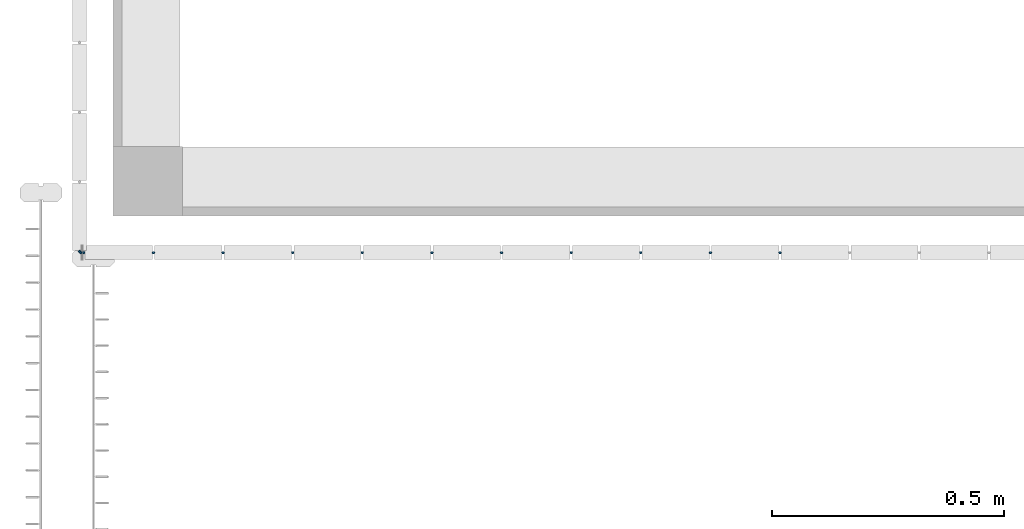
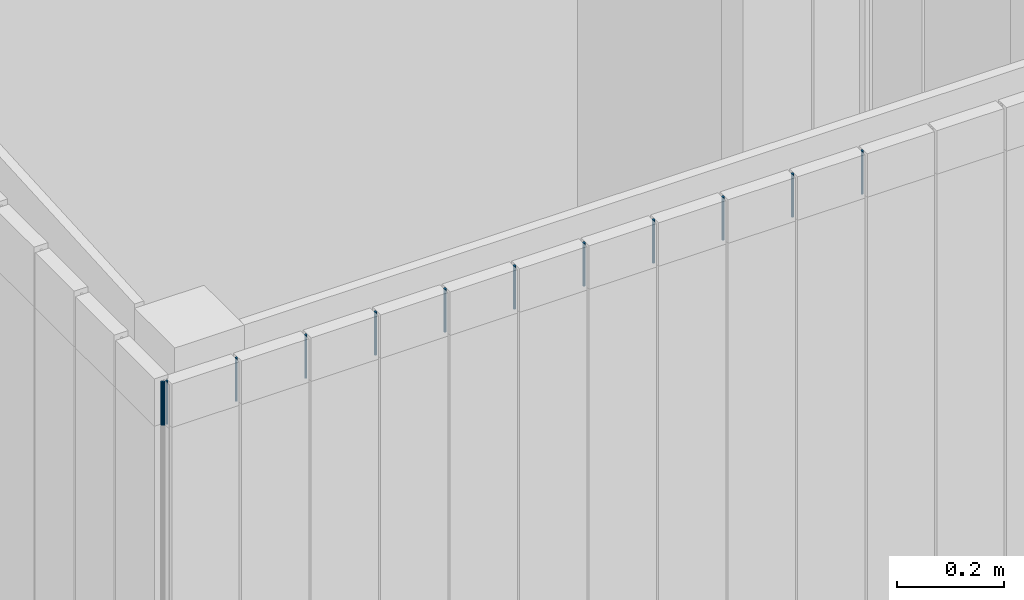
# One storey, part 63 of 81: 13 members, 2 elements without a shape of their own.
"""IFC2X3 building model written with IfcOpenShell, lengths in metres."""

from ifc_helpers import new_model, entity, si_unit, converted_unit, derived_unit, direction, frame, frame_2d, origin, place, context, subcontext, project, spatial, circle, extrude, source, transform, mapped, material, type_object, type_shapes, element, aggregate, save


model = new_model("IFC2X3")

# Units and contexts
model_context = context("Model", 3, precision=1e-05, world=origin(), true_north=direction((6.12303176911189e-17, 1.0)))
body_context = subcontext(model_context, "Body", "Model", "MODEL_VIEW")
ifc_project = project(units=[si_unit("LENGTHUNIT", "METRE"), si_unit("AREAUNIT", "SQUARE_METRE"), si_unit("VOLUMEUNIT", "CUBIC_METRE"), converted_unit("PLANEANGLEUNIT", "DEGREE", entity("IfcRatioMeasure", 0.0174532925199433), si_unit("PLANEANGLEUNIT", "RADIAN"), dimensions=[0, 0, 0, 0, 0, 0, 0]), si_unit("MASSUNIT", "GRAM", prefix="KILO"), derived_unit("MASSDENSITYUNIT", [(si_unit("MASSUNIT", "GRAM", prefix="KILO"), 1), (si_unit("LENGTHUNIT", "METRE"), -3)]), derived_unit("MOMENTOFINERTIAUNIT", [(si_unit("LENGTHUNIT", "METRE"), 4)]), si_unit("TIMEUNIT", "SECOND"), si_unit("FREQUENCYUNIT", "HERTZ"), si_unit("THERMODYNAMICTEMPERATUREUNIT", "DEGREE_CELSIUS"), derived_unit("THERMALTRANSMITTANCEUNIT", [(si_unit("MASSUNIT", "GRAM", prefix="KILO"), 1), (si_unit("THERMODYNAMICTEMPERATUREUNIT", "KELVIN"), -1), (si_unit("TIMEUNIT", "SECOND"), -3)]), derived_unit("VOLUMETRICFLOWRATEUNIT", [(si_unit("LENGTHUNIT", "METRE"), 3), (si_unit("TIMEUNIT", "SECOND"), -1)]), si_unit("ELECTRICCURRENTUNIT", "AMPERE"), si_unit("ELECTRICVOLTAGEUNIT", "VOLT"), si_unit("POWERUNIT", "WATT"), si_unit("FORCEUNIT", "NEWTON", prefix="KILO"), si_unit("ILLUMINANCEUNIT", "LUX"), si_unit("LUMINOUSFLUXUNIT", "LUMEN"), si_unit("LUMINOUSINTENSITYUNIT", "CANDELA"), derived_unit("USERDEFINED", [(si_unit("MASSUNIT", "GRAM", prefix="KILO"), -1), (si_unit("LENGTHUNIT", "METRE"), -2), (si_unit("TIMEUNIT", "SECOND"), 3), (si_unit("LUMINOUSFLUXUNIT", "LUMEN"), 1)]), derived_unit("LINEARVELOCITYUNIT", [(si_unit("LENGTHUNIT", "METRE"), 1), (si_unit("TIMEUNIT", "SECOND"), -1)]), si_unit("PRESSUREUNIT", "PASCAL"), derived_unit("USERDEFINED", [(si_unit("LENGTHUNIT", "METRE"), -2), (si_unit("MASSUNIT", "GRAM", prefix="KILO"), 1), (si_unit("TIMEUNIT", "SECOND"), -2)]), derived_unit("LINEARFORCEUNIT", [(si_unit("MASSUNIT", "GRAM", prefix="KILO"), 1), (si_unit("LENGTHUNIT", "METRE"), 1), (si_unit("TIMEUNIT", "SECOND"), -2), (si_unit("LENGTHUNIT", "METRE"), -1)]), derived_unit("PLANARFORCEUNIT", [(si_unit("MASSUNIT", "GRAM", prefix="KILO"), 1), (si_unit("LENGTHUNIT", "METRE"), 1), (si_unit("TIMEUNIT", "SECOND"), -2), (si_unit("LENGTHUNIT", "METRE"), -2)])], contexts=[model_context])

# Site, building, storey
site_placement = place(None, origin())
site = spatial("IfcSite", under=ifc_project, at=site_placement, Name="Surface", CompositionType="ELEMENT")
building_placement = place(site_placement, origin())
building = spatial("IfcBuilding", under=site, at=building_placement, CompositionType="ELEMENT")
storey_placement = place(building_placement, origin())
storey = spatial("IfcBuildingStorey", under=building, at=storey_placement, Name="01 RDC", CompositionType="ELEMENT", Elevation=-1.94916083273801e-14)

# Curtain wall, member
curtain_wall_type = type_object("IfcCurtainWallType", Name="Mur-rideau:1m x 2m", PredefinedType="NOTDEFINED")
curtain_wall_1_placement = place(storey_placement, origin())
curtain_wall_1 = element("IfcCurtainWall", 1, at=curtain_wall_1_placement, inside=storey, type_object=curtain_wall_type, Name="Mur-rideau:1m x 2m", ObjectType="Mur-rideau:1m x 2m")
ifc_material = material(Name="Aluminium - Vert")
member_type_1 = type_object("IfcMemberType", Name="Meneau circulaire:R-30 mm", PredefinedType="MULLION", material=ifc_material)
shared_shape_1 = source(origin(), body_context, "Body", "SweptSolid", [
    extrude(circle(Radius=0.0025, at=frame_2d((4.84388392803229e-31, -1.54987402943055e-16), x_axis=(1.0, 0.0))), frame((-0.0025, 0.0, -0.0986139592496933)), (0.0, 0.0, 1.0), 0.0986139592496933),
])
type_shapes(member_type_1, [shared_shape_1])
member_1_placement = place(storey_placement, frame((5.45983615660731, -6.30971095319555, 2.39861395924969), z_axis=(0.0, 0.0, 1.0), x_axis=(0.0, -1.0, 0.0)))
member_1 = element("IfcMember", 2, at=member_1_placement, type_object=member_type_1, material=ifc_material, Name="Meneau circulaire:R-30 mm", ObjectType="Meneau circulaire:R-30 mm", context=body_context, shape_type="MappedRepresentation", body=[
    mapped(shared_shape_1, transform((0.0, 0.0, 0.0), scale=1.0)),
])
aggregate(curtain_wall_1, [member_1])

# Curtain wall, members
curtain_wall_2_placement = place(storey_placement, origin())
curtain_wall_2 = element("IfcCurtainWall", 3, at=curtain_wall_2_placement, inside=storey, type_object=curtain_wall_type, Name="Mur-rideau:1m x 2m", ObjectType="Mur-rideau:1m x 2m")
member_type_2 = type_object("IfcMemberType", Name="Meneau circulaire:R-30 mm", PredefinedType="MULLION", material=ifc_material)
shared_shape_2 = source(origin(), body_context, "Body", "SweptSolid", [
    extrude(circle(Radius=0.0025, at=frame_2d((-2.16392754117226e-29, 1.64466088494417e-16), x_axis=(1.0, 0.0))), frame((-0.0025, 0.0, -0.0992255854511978), z_axis=(0.0, 0.0, 1.0), x_axis=(-1.0, 0.0, 0.0)), (0.0, 0.0, 1.0), 0.0992255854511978),
])
type_shapes(member_type_2, [shared_shape_2])
member_2_placement = place(storey_placement, frame((5.45983615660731, -6.30971095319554, 2.3), z_axis=(0.0, 0.0, -1.0), x_axis=(-1.0, 0.0, 0.0)))
member_2 = element("IfcMember", 4, at=member_2_placement, type_object=member_type_2, material=ifc_material, Name="Meneau circulaire:R-30 mm", ObjectType="Meneau circulaire:R-30 mm", context=body_context, shape_type="MappedRepresentation", body=[
    mapped(shared_shape_2, transform((0.0, 0.0, 0.0), scale=1.0)),
])
member_type_3 = type_object("IfcMemberType", Name="Meneau circulaire:R-30 mm", PredefinedType="MULLION", material=ifc_material)
shared_shape_3 = source(origin(), body_context, "Body", "SweptSolid", [
    extrude(circle(Radius=0.0025, at=frame_2d((2.64371857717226e-19, 1.64466088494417e-16), x_axis=(1.0, 0.0))), frame((0.0, 0.0, -0.0992255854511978), z_axis=(0.0, 0.0, 1.0), x_axis=(-1.0, 0.0, 0.0)), (0.0, 0.0, 1.0), 0.0992255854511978),
])
type_shapes(member_type_3, [shared_shape_3])
member_3_placement = place(storey_placement, frame((6.36906158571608, -6.30971095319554, 2.3), z_axis=(0.0, 0.0, -1.0), x_axis=(-1.0, 0.0, 0.0)))
member_3 = element("IfcMember", 5, at=member_3_placement, type_object=member_type_3, material=ifc_material, Name="Meneau circulaire:R-30 mm", ObjectType="Meneau circulaire:R-30 mm", context=body_context, shape_type="MappedRepresentation", body=[
    mapped(shared_shape_3, transform((0.0, 0.0, 0.0), scale=1.0)),
])
member_4_placement = place(storey_placement, frame((6.21906158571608, -6.30971095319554, 2.3), z_axis=(0.0, 0.0, -1.0), x_axis=(-1.0, 0.0, 0.0)))
member_4 = element("IfcMember", 6, at=member_4_placement, type_object=member_type_3, material=ifc_material, Name="Meneau circulaire:R-30 mm", ObjectType="Meneau circulaire:R-30 mm", context=body_context, shape_type="MappedRepresentation", body=[
    mapped(shared_shape_3, transform((0.0, 0.0, 0.0), scale=1.0)),
])
member_5_placement = place(storey_placement, frame((6.06906158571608, -6.30971095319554, 2.3), z_axis=(0.0, 0.0, -1.0), x_axis=(-1.0, 0.0, 0.0)))
member_5 = element("IfcMember", 7, at=member_5_placement, type_object=member_type_3, material=ifc_material, Name="Meneau circulaire:R-30 mm", ObjectType="Meneau circulaire:R-30 mm", context=body_context, shape_type="MappedRepresentation", body=[
    mapped(shared_shape_3, transform((0.0, 0.0, 0.0), scale=1.0)),
])
member_6_placement = place(storey_placement, frame((5.91906158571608, -6.30971095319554, 2.3), z_axis=(0.0, 0.0, -1.0), x_axis=(-1.0, 0.0, 0.0)))
member_6 = element("IfcMember", 8, at=member_6_placement, type_object=member_type_3, material=ifc_material, Name="Meneau circulaire:R-30 mm", ObjectType="Meneau circulaire:R-30 mm", context=body_context, shape_type="MappedRepresentation", body=[
    mapped(shared_shape_3, transform((0.0, 0.0, 0.0), scale=1.0)),
])
member_7_placement = place(storey_placement, frame((5.76906158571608, -6.30971095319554, 2.3), z_axis=(0.0, 0.0, -1.0), x_axis=(-1.0, 0.0, 0.0)))
member_7 = element("IfcMember", 9, at=member_7_placement, type_object=member_type_3, material=ifc_material, Name="Meneau circulaire:R-30 mm", ObjectType="Meneau circulaire:R-30 mm", context=body_context, shape_type="MappedRepresentation", body=[
    mapped(shared_shape_3, transform((0.0, 0.0, 0.0), scale=1.0)),
])
member_8_placement = place(storey_placement, frame((5.61906158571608, -6.30971095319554, 2.3), z_axis=(0.0, 0.0, -1.0), x_axis=(-1.0, 0.0, 0.0)))
member_8 = element("IfcMember", 10, at=member_8_placement, type_object=member_type_3, material=ifc_material, Name="Meneau circulaire:R-30 mm", ObjectType="Meneau circulaire:R-30 mm", context=body_context, shape_type="MappedRepresentation", body=[
    mapped(shared_shape_3, transform((0.0, 0.0, 0.0), scale=1.0)),
])
member_9_placement = place(storey_placement, frame((5.46906158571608, -6.30971095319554, 2.3), z_axis=(0.0, 0.0, -1.0), x_axis=(-1.0, 0.0, 0.0)))
member_9 = element("IfcMember", 11, at=member_9_placement, type_object=member_type_3, material=ifc_material, Name="Meneau circulaire:R-30 mm", ObjectType="Meneau circulaire:R-30 mm", context=body_context, shape_type="MappedRepresentation", body=[
    mapped(shared_shape_3, transform((0.0, 0.0, 0.0), scale=1.0)),
])
member_10_placement = place(storey_placement, frame((6.51906158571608, -6.30971095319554, 2.3), z_axis=(0.0, 0.0, -1.0), x_axis=(-1.0, 0.0, 0.0)))
member_10 = element("IfcMember", 12, at=member_10_placement, type_object=member_type_3, material=ifc_material, Name="Meneau circulaire:R-30 mm", ObjectType="Meneau circulaire:R-30 mm", context=body_context, shape_type="MappedRepresentation", body=[
    mapped(shared_shape_3, transform((0.0, 0.0, 0.0), scale=1.0)),
])
member_11_placement = place(storey_placement, frame((6.66906158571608, -6.30971095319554, 2.3), z_axis=(0.0, 0.0, -1.0), x_axis=(-1.0, 0.0, 0.0)))
member_11 = element("IfcMember", 13, at=member_11_placement, type_object=member_type_3, material=ifc_material, Name="Meneau circulaire:R-30 mm", ObjectType="Meneau circulaire:R-30 mm", context=body_context, shape_type="MappedRepresentation", body=[
    mapped(shared_shape_3, transform((0.0, 0.0, 0.0), scale=1.0)),
])
member_12_placement = place(storey_placement, frame((6.81906158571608, -6.30971095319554, 2.3), z_axis=(0.0, 0.0, -1.0), x_axis=(-1.0, 0.0, 0.0)))
member_12 = element("IfcMember", 14, at=member_12_placement, type_object=member_type_3, material=ifc_material, Name="Meneau circulaire:R-30 mm", ObjectType="Meneau circulaire:R-30 mm", context=body_context, shape_type="MappedRepresentation", body=[
    mapped(shared_shape_3, transform((0.0, 0.0, 0.0), scale=1.0)),
])
member_13_placement = place(storey_placement, frame((6.96906158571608, -6.30971095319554, 2.3), z_axis=(0.0, 0.0, -1.0), x_axis=(-1.0, 0.0, 0.0)))
member_13 = element("IfcMember", 15, at=member_13_placement, type_object=member_type_3, material=ifc_material, Name="Meneau circulaire:R-30 mm", ObjectType="Meneau circulaire:R-30 mm", context=body_context, shape_type="MappedRepresentation", body=[
    mapped(shared_shape_3, transform((0.0, 0.0, 0.0), scale=1.0)),
])
aggregate(curtain_wall_2, [member_2, member_3, member_4, member_5, member_6, member_7, member_8, member_9, member_10, member_11, member_12, member_13])

save(model, "model.ifc")
